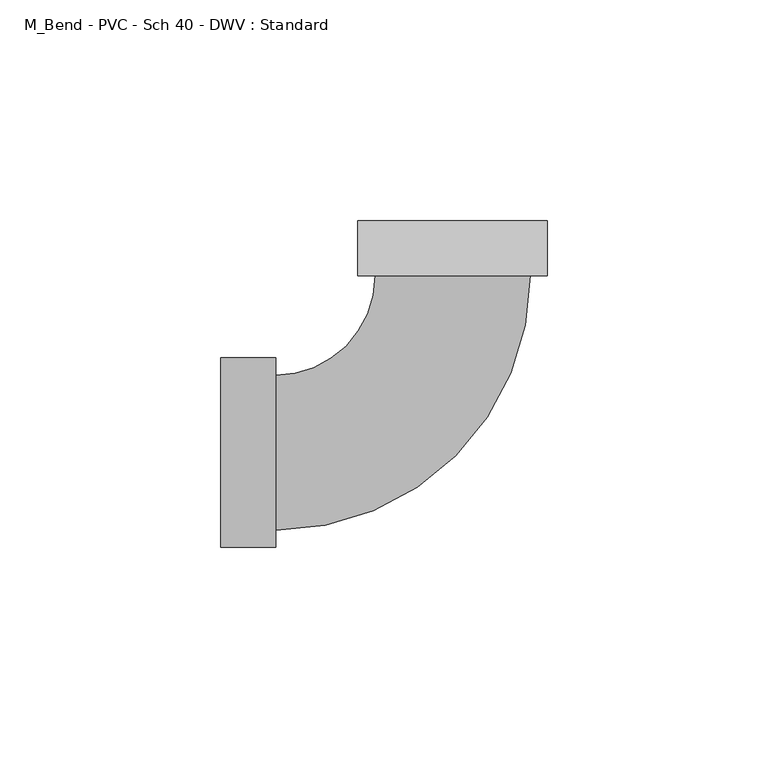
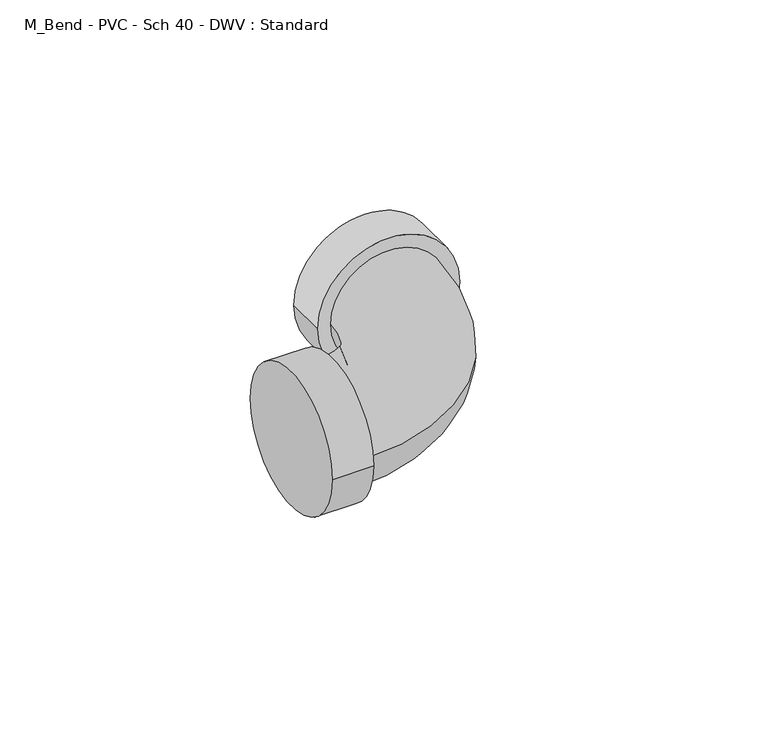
"""IFC4 building model written with IfcOpenShell, lengths in millimetres: pipe fitting geometry, M_Bend - PVC - Sch 40 - DWV : Standard."""

from ifc_helpers import new_model, si_unit, point, frame, origin, place, context, project, spatial, circle_curve, ellipse_curve, trimmed, source, transform, mapped, element, save
from ifc_brep_helpers import plane_surface, cylinder_surface, revolved_surface, advanced_brep


def m_bend_pvc_sch_40_dwv_standard_ad3fa52a(model_context):
    return source(origin(), model_context, "Body", "AdvancedBrep", [
        advanced_brep(
        [(-52.6140625, -21.4871094, 0.0), (-52.6140625, 21.4871094, 0.0), (-40.1140625, -21.4871094, 0.0), (-40.1140625, 21.4871094, 0.0), (-40.1140625, -17.5640625, 0.0), (-40.1140625, 17.5640625, 0.0), (-17.5627165, 40.1146518, 0.0), (17.5654085, 40.1134731, 0.0), (21.4884554, 40.1133415, 0.0), (-21.4857633, 40.1147835, 0.0), (21.4888748, 52.6133415, 0.0), (-21.4853439, 52.6147835, 0.0)],
        [
            (0, 1, circle_curve(frame((-52.6140625, 0.0, 0.0), z_axis=(-1.0, 0.0, 0.0), x_axis=(0.0, 1.0, 0.0)), 21.4871094)),
            (1, 0, circle_curve(frame((-52.6140625, 0.0, 0.0), z_axis=(-1.0, 0.0, 0.0), x_axis=(0.0, 1.0, 0.0)), 21.4871094)),
            (2, 3, circle_curve(frame((-40.1140625, 0.0, 0.0), z_axis=(1.0, 0.0, 0.0), x_axis=(0.0, 1.0, 0.0)), 21.4871094)),
            (3, 2, circle_curve(frame((-40.1140625, 0.0, 0.0), z_axis=(1.0, 0.0, 0.0), x_axis=(0.0, 1.0, 0.0)), 21.4871094)),
            (4, 5, circle_curve(frame((-40.1140625, 0.0, 0.0), z_axis=(-1.0, 0.0, 0.0), x_axis=(0.0, 1.0, 0.0)), 17.5640625)),
            (5, 4, circle_curve(frame((-40.1140625, 0.0, 0.0), z_axis=(-1.0, 0.0, 0.0), x_axis=(0.0, 1.0, 0.0)), 17.5640625)),
            (0, 2),
            (3, 1),
            (6, 5, circle_curve(frame((-40.1140625, 40.1154085, 0.0), z_axis=(0.0, 0.0, -1.0), x_axis=(0.0, -1.0, 0.0)), 22.551346)),
            (4, 7, circle_curve(frame((-40.1140625, 40.1154085, 0.0), z_axis=(0.0, 0.0, 1.0), x_axis=(0.0, -1.0, 0.0)), 57.679471)),
            (7, 6, circle_curve(frame((0.001346, 40.1140625, 0.0), z_axis=(-3.355488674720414e-05, -0.9999999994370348, 0.0), x_axis=(-0.9999999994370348, 3.355488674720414e-05, 0.0)), 17.5640625)),
            (6, 7, circle_curve(frame((0.001346, 40.1140625, 0.0), z_axis=(-3.355488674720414e-05, -0.9999999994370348, 0.0), x_axis=(-0.9999999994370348, 3.355488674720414e-05, 0.0)), 17.5640625)),
            (8, 9, circle_curve(frame((0.001346, 40.1140625, 0.0), z_axis=(-3.3554886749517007e-05, -0.9999999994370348, 0.0), x_axis=(-0.9999999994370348, 3.3554886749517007e-05, 0.0)), 21.4871094)),
            (9, 8, circle_curve(frame((0.001346, 40.1140625, 0.0), z_axis=(-3.3554886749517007e-05, -0.9999999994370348, 0.0), x_axis=(-0.9999999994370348, 3.3554886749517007e-05, 0.0)), 21.4871094)),
            (10, 11, circle_curve(frame((0.0017655, 52.6140625, 0.0), z_axis=(3.3554886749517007e-05, 0.9999999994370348, 0.0), x_axis=(-0.9999999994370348, 3.3554886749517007e-05, 0.0)), 21.4871094)),
            (11, 10, circle_curve(frame((0.0017655, 52.6140625, 0.0), z_axis=(3.3554886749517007e-05, 0.9999999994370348, 0.0), x_axis=(-0.9999999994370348, 3.3554886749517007e-05, 0.0)), 21.4871094)),
            (8, 10),
            (11, 9),
        ],
        [
            plane_surface(frame((-52.6140625, 0.0, 0.0), z_axis=(-1.0, 0.0, 0.0), x_axis=(0.0, 0.0, 1.0))),
            plane_surface(frame((-40.1140625, 0.0, 0.0), z_axis=(1.0, 0.0, 0.0), x_axis=(0.0, 0.0, 1.0))),
            cylinder_surface(frame((-52.6140625, 0.0, 0.0), z_axis=(-1.0, 0.0, 0.0), x_axis=(0.0, 1.0, 0.0)), 21.4871094),
            revolved_surface(trimmed(ellipse_curve(frame((-40.1140625, 0.0, 0.0), z_axis=(-1.0, 0.0, 0.0), x_axis=(0.0, 1.0, 0.0)), 17.5640625, 17.5640625), [point((-40.1140625, -17.5640625, 0.0))], [point((-40.1140625, 17.5640625, 0.0))], True, "CARTESIAN"), (-40.1140625, 40.1154085, 0.0), (0.0, 0.0, 1.0)),
            revolved_surface(trimmed(ellipse_curve(frame((-40.1140625, 0.0, 0.0), z_axis=(-1.0, 0.0, 0.0), x_axis=(0.0, 1.0, 0.0)), 17.5640625, 17.5640625), [point((-40.1140625, 17.5640625, 0.0))], [point((-40.1140625, -17.5640625, 0.0))], True, "CARTESIAN"), (-40.1140625, 40.1154085, 0.0), (0.0, 0.0, 1.0)),
            plane_surface(frame((0.001346, 40.1140625, 0.0), z_axis=(-3.3554886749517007e-05, -0.9999999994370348, 0.0), x_axis=(0.0, 0.0, 1.0))),
            plane_surface(frame((0.0017655, 52.6140625, 0.0), z_axis=(3.3554886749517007e-05, 0.9999999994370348, 0.0), x_axis=(0.0, 0.0, 1.0))),
            cylinder_surface(frame((0.001346, 40.1140625, 0.0), z_axis=(-3.3554886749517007e-05, -0.9999999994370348, 0.0), x_axis=(-0.9999999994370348, 3.3554886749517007e-05, 0.0)), 21.4871094),
        ],
        [
            (0, [[1, 2]]),
            (1, [[3, 4], [5, 6]]),
            (2, [[-1, 7, -4, 8]]),
            (2, [[-2, -8, -3, -7]]),
            (3, [[9, -5, 10, 11]]),
            (4, [[-9, 12, -10, -6]]),
            (5, [[13, 14], [-11, -12]]),
            (6, [[15, 16]]),
            (7, [[-13, 17, -16, 18]]),
            (7, [[-14, -18, -15, -17]]),
        ],
    ),
    ])


if __name__ == "__main__":
    model = new_model("IFC4")
    model_context = context("Model", 3, world=origin())
    ifc_project = project(units=[si_unit("LENGTHUNIT", "METRE", prefix="MILLI")], contexts=[model_context])
    site = spatial("IfcSite", under=ifc_project)
    building = spatial("IfcBuilding", under=site)
    placement = place(None, origin())
    m_bend_pvc_sch_40_dwv_standard_shape = m_bend_pvc_sch_40_dwv_standard_ad3fa52a(model_context)
    element("IfcPipeFitting", 1, ObjectType="M_Bend - PVC - Sch 40 - DWV : Standard", at=placement, inside=building, context=model_context, shape_type="MappedRepresentation", body=[
        mapped(m_bend_pvc_sch_40_dwv_standard_shape, transform((0.0, 0.0, 0.0), x_axis=(1.0, 0.0, 0.0), y_axis=(0.0, 1.0, 0.0), z_axis=(0.0, 0.0, 1.0))),
    ])
    save(model, "model.ifc")
